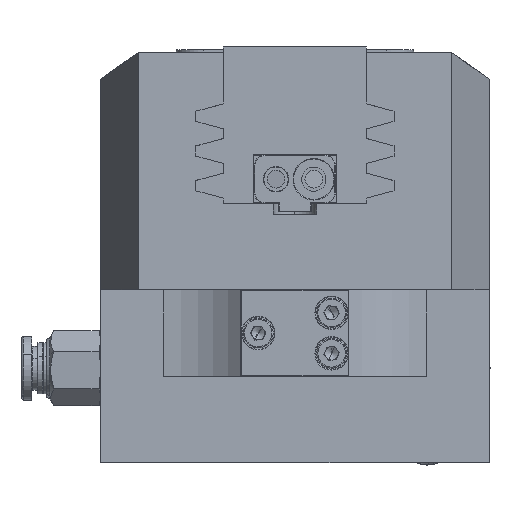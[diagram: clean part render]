
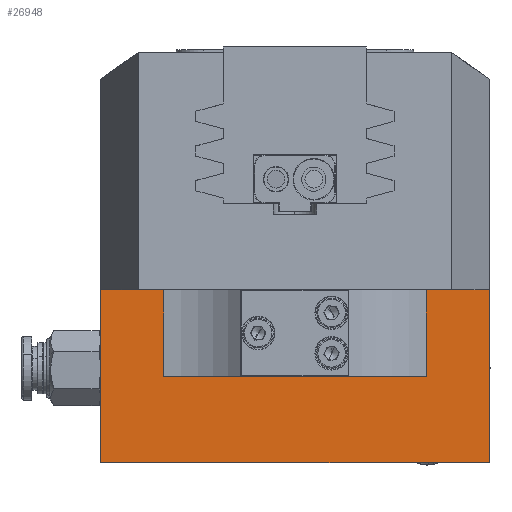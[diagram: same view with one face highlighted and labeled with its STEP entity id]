
A CAD part, left-side view. The second image highlights one B-rep face of the part: STEP entity #26948.
In plain terms, the highlighted planar face has unit normal (-1, 0, 0).
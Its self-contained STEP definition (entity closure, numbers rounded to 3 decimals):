
#659 = CARTESIAN_POINT ( 'NONE',  ( -154.298, -14.933, 95.345 ) ) ;
#1130 = VERTEX_POINT ( 'NONE', #29752 ) ;
#1250 = DIRECTION ( 'NONE',  ( -1., 0., 0. ) ) ;
#2055 = VERTEX_POINT ( 'NONE', #3852 ) ;
#2352 = VECTOR ( 'NONE', #24736, 1000. ) ;
#3067 = CARTESIAN_POINT ( 'NONE',  ( -154.298, 9.35, 79.345 ) ) ;
#3846 = AXIS2_PLACEMENT_3D ( 'NONE', #12800, #1250, #16667 ) ;
#3852 = CARTESIAN_POINT ( 'NONE',  ( -154.298, 33.633, 95.345 ) ) ;
#3996 = CARTESIAN_POINT ( 'NONE',  ( -154.298, 19.35, 95.345 ) ) ;
#4585 = CARTESIAN_POINT ( 'NONE',  ( -154.298, -26.65, 79.345 ) ) ;
#4684 = VERTEX_POINT ( 'NONE', #46449 ) ;
#6022 = FACE_OUTER_BOUND ( 'NONE', #35344, .T. ) ;
#7061 = CARTESIAN_POINT ( 'NONE',  ( -154.298, 45.35, 79.345 ) ) ;
#7219 = ORIENTED_EDGE ( 'NONE', *, *, #25541, .T. ) ;
#9542 = CARTESIAN_POINT ( 'NONE',  ( -154.298, -26.65, 111.345 ) ) ;
#9778 = CARTESIAN_POINT ( 'NONE',  ( -154.298, 33.633, 111.345 ) ) ;
#9805 = LINE ( 'NONE', #33460, #19589 ) ;
#11379 = DIRECTION ( 'NONE',  ( 0., -1., 0. ) ) ;
#12570 = ORIENTED_EDGE ( 'NONE', *, *, #14327, .F. ) ;
#12800 = CARTESIAN_POINT ( 'NONE',  ( -154.298, 51.199, 111.345 ) ) ;
#12825 = LINE ( 'NONE', #15552, #40945 ) ;
#14327 = EDGE_CURVE ( 'NONE', #32328, #1130, #29018, .T. ) ;
#15469 = CARTESIAN_POINT ( 'NONE',  ( -154.298, 51.199, 111.345 ) ) ;
#15552 = CARTESIAN_POINT ( 'NONE',  ( -154.298, 51.199, 111.345 ) ) ;
#15622 = DIRECTION ( 'NONE',  ( 0., 1., 0. ) ) ;
#15656 = DIRECTION ( 'NONE',  ( 0., 0., -1. ) ) ;
#16287 = EDGE_CURVE ( 'NONE', #32846, #18329, #9805, .T. ) ;
#16534 = CARTESIAN_POINT ( 'NONE',  ( -154.298, 33.633, 111.345 ) ) ;
#16630 = ORIENTED_EDGE ( 'NONE', *, *, #29708, .F. ) ;
#16667 = DIRECTION ( 'NONE',  ( 0., 0., -1. ) ) ;
#17593 = ORIENTED_EDGE ( 'NONE', *, *, #19234, .F. ) ;
#17993 = LINE ( 'NONE', #3996, #41503 ) ;
#18329 = VERTEX_POINT ( 'NONE', #659 ) ;
#19234 = EDGE_CURVE ( 'NONE', #2055, #18329, #17993, .T. ) ;
#19260 = EDGE_CURVE ( 'NONE', #21614, #32846, #12825, .T. ) ;
#19294 = VECTOR ( 'NONE', #35823, 1000. ) ;
#19589 = VECTOR ( 'NONE', #15656, 1000. ) ;
#21614 = VERTEX_POINT ( 'NONE', #9542 ) ;
#21891 = LINE ( 'NONE', #7061, #2352 ) ;
#22599 = CARTESIAN_POINT ( 'NONE',  ( -154.298, -26.65, 79.345 ) ) ;
#23144 = CARTESIAN_POINT ( 'NONE',  ( -154.298, -14.933, 111.345 ) ) ;
#24682 = LINE ( 'NONE', #22599, #45877 ) ;
#24736 = DIRECTION ( 'NONE',  ( 0., 0., 1. ) ) ;
#25015 = LINE ( 'NONE', #15469, #26164 ) ;
#25541 = EDGE_CURVE ( 'NONE', #2055, #25578, #25962, .T. ) ;
#25578 = VERTEX_POINT ( 'NONE', #9778 ) ;
#25962 = LINE ( 'NONE', #16534, #35148 ) ;
#26131 = DIRECTION ( 'NONE',  ( 0., 1., 0. ) ) ;
#26164 = VECTOR ( 'NONE', #15622, 1000. ) ;
#26928 = PLANE ( 'NONE',  #3846 ) ;
#26948 = ADVANCED_FACE ( 'NONE', ( #6022 ), #26928, .T. ) ;
#29018 = LINE ( 'NONE', #3067, #19294 ) ;
#29708 = EDGE_CURVE ( 'NONE', #21614, #32328, #24682, .T. ) ;
#29752 = CARTESIAN_POINT ( 'NONE',  ( -154.298, 45.35, 79.345 ) ) ;
#30655 = ORIENTED_EDGE ( 'NONE', *, *, #19260, .T. ) ;
#30780 = EDGE_CURVE ( 'NONE', #25578, #4684, #25015, .T. ) ;
#32328 = VERTEX_POINT ( 'NONE', #4585 ) ;
#32846 = VERTEX_POINT ( 'NONE', #23144 ) ;
#33460 = CARTESIAN_POINT ( 'NONE',  ( -154.298, -14.933, 95.345 ) ) ;
#35148 = VECTOR ( 'NONE', #46330, 1000. ) ;
#35344 = EDGE_LOOP ( 'NONE', ( #30655, #40425, #17593, #7219, #44086, #42044, #12570, #16630 ) ) ;
#35823 = DIRECTION ( 'NONE',  ( 0., 1., 0. ) ) ;
#37391 = DIRECTION ( 'NONE',  ( 0., 0., -1. ) ) ;
#40425 = ORIENTED_EDGE ( 'NONE', *, *, #16287, .T. ) ;
#40945 = VECTOR ( 'NONE', #26131, 1000. ) ;
#41503 = VECTOR ( 'NONE', #11379, 1000. ) ;
#42044 = ORIENTED_EDGE ( 'NONE', *, *, #45134, .F. ) ;
#44086 = ORIENTED_EDGE ( 'NONE', *, *, #30780, .T. ) ;
#45134 = EDGE_CURVE ( 'NONE', #1130, #4684, #21891, .T. ) ;
#45877 = VECTOR ( 'NONE', #37391, 1000. ) ;
#46330 = DIRECTION ( 'NONE',  ( 0., 0., 1. ) ) ;
#46449 = CARTESIAN_POINT ( 'NONE',  ( -154.298, 45.35, 111.345 ) ) ;
